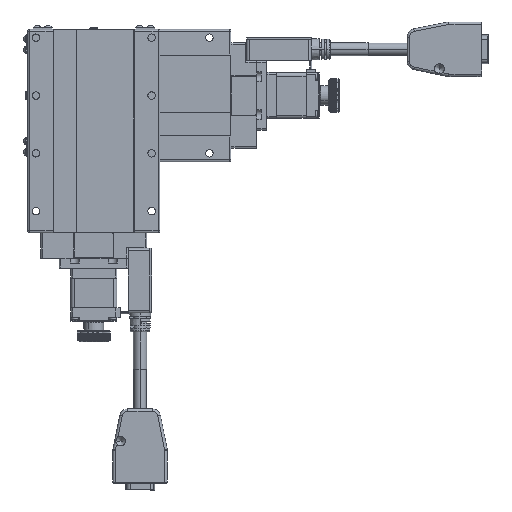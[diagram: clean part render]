
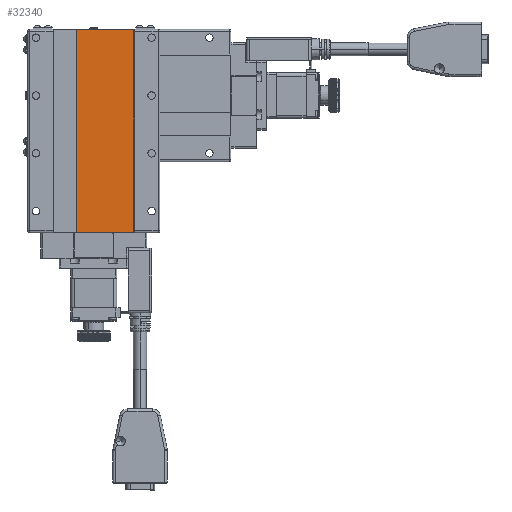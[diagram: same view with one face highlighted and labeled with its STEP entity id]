
A CAD part, front view. The second image highlights one B-rep face of the part: STEP entity #32340.
In plain terms, the highlighted planar face has unit normal (0, -1, 0).
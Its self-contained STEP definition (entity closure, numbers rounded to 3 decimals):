
#3107 = VECTOR ( 'NONE', #117023, 1000. ) ;
#4855 = CARTESIAN_POINT ( 'NONE',  ( 24.3, 0.3, -0.2 ) ) ;
#5339 = CARTESIAN_POINT ( 'NONE',  ( 24.3, 0.3, -0.2 ) ) ;
#5571 = EDGE_CURVE ( 'NONE', #155910, #80287, #115268, .T. ) ;
#12264 = EDGE_CURVE ( 'NONE', #173291, #48670, #88254, .T. ) ;
#12443 = CARTESIAN_POINT ( 'NONE',  ( 24.3, 0.3, -122.8 ) ) ;
#22054 = DIRECTION ( 'NONE',  ( 1., 0., 0. ) ) ;
#26652 = DIRECTION ( 'NONE',  ( 0., 1., 0. ) ) ;
#28892 = EDGE_CURVE ( 'NONE', #48670, #155910, #139761, .T. ) ;
#32340 = ADVANCED_FACE ( 'NONE', ( #93336 ), #146927, .F. ) ;
#48670 = VERTEX_POINT ( 'NONE', #146068 ) ;
#60732 = ORIENTED_EDGE ( 'NONE', *, *, #12264, .T. ) ;
#62810 = VECTOR ( 'NONE', #22054, 1000. ) ;
#74907 = CARTESIAN_POINT ( 'NONE',  ( 24.3, 0.3, -0.2 ) ) ;
#80287 = VERTEX_POINT ( 'NONE', #5339 ) ;
#85199 = EDGE_CURVE ( 'NONE', #80287, #173291, #85649, .T. ) ;
#85649 = LINE ( 'NONE', #4855, #130268 ) ;
#88254 = LINE ( 'NONE', #127775, #141635 ) ;
#91716 = AXIS2_PLACEMENT_3D ( 'NONE', #162687, #26652, #120553 ) ;
#93336 = FACE_OUTER_BOUND ( 'NONE', #171492, .T. ) ;
#110898 = CARTESIAN_POINT ( 'NONE',  ( -10.3, 0.3, -0.2 ) ) ;
#115268 = LINE ( 'NONE', #74907, #3107 ) ;
#117023 = DIRECTION ( 'NONE',  ( 0., 0., 1. ) ) ;
#120553 = DIRECTION ( 'NONE',  ( 1., 0., 0. ) ) ;
#126795 = ORIENTED_EDGE ( 'NONE', *, *, #5571, .T. ) ;
#127775 = CARTESIAN_POINT ( 'NONE',  ( -10.3, 0.3, -0.2 ) ) ;
#130268 = VECTOR ( 'NONE', #153245, 1000. ) ;
#139761 = LINE ( 'NONE', #143194, #62810 ) ;
#141635 = VECTOR ( 'NONE', #170762, 1000. ) ;
#143194 = CARTESIAN_POINT ( 'NONE',  ( 24.3, 0.3, -122.8 ) ) ;
#144770 = ORIENTED_EDGE ( 'NONE', *, *, #28892, .T. ) ;
#146068 = CARTESIAN_POINT ( 'NONE',  ( -10.3, 0.3, -122.8 ) ) ;
#146927 = PLANE ( 'NONE',  #91716 ) ;
#153245 = DIRECTION ( 'NONE',  ( -1., 0., 0. ) ) ;
#155910 = VERTEX_POINT ( 'NONE', #12443 ) ;
#162687 = CARTESIAN_POINT ( 'NONE',  ( 24.3, 0.3, -122.8 ) ) ;
#168012 = ORIENTED_EDGE ( 'NONE', *, *, #85199, .T. ) ;
#170762 = DIRECTION ( 'NONE',  ( 0., 0., -1. ) ) ;
#171492 = EDGE_LOOP ( 'NONE', ( #126795, #168012, #60732, #144770 ) ) ;
#173291 = VERTEX_POINT ( 'NONE', #110898 ) ;
